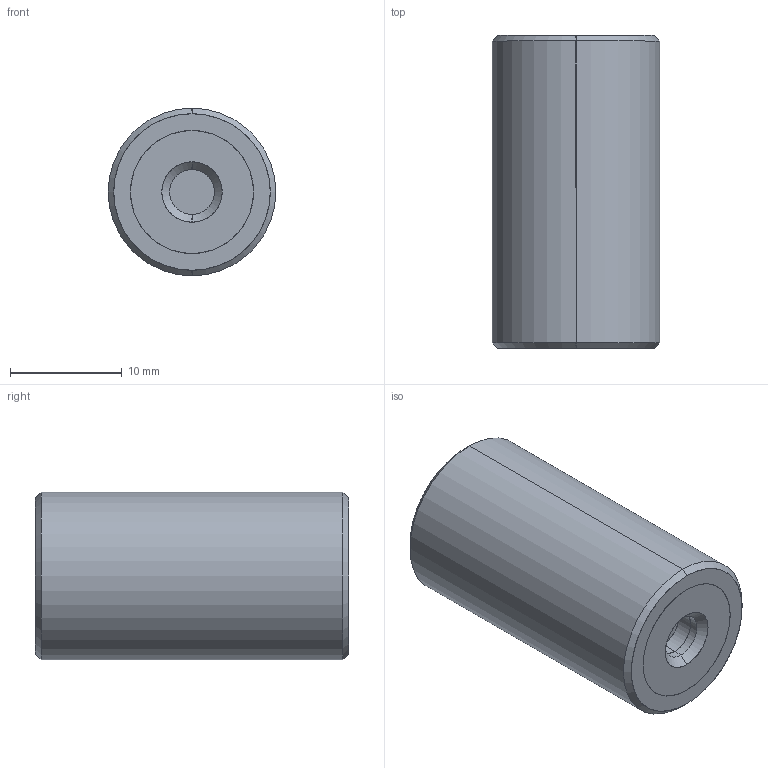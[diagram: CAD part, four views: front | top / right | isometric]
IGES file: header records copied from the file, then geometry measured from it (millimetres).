
Start section: SolidWorks IGES file using analytic representation for surfaces
Global section: file name: E:\WIXROYD 20180701\61080_v2\61080_v2_20180409_IGES\61080.W0155.igs; native system: SolidWorks 2017; preprocessor: SolidWorks 2017; author: liam_; date: 180716.214221; units: millimetre
Bounding box: 15 x 28 x 15 mm (x, y, z)
Surface area: 2248.2 mm2 (no closed solid volume)
Topology: 0 solids, 0 shells, 36 faces, 680 edges, 680 vertices
Faces by surface type: revolution 26, bspline 10
